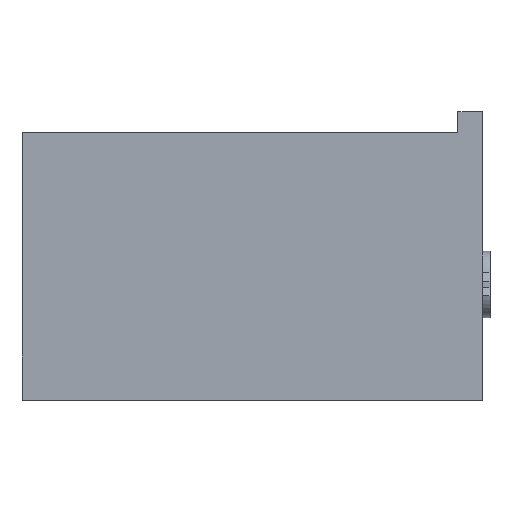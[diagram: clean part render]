
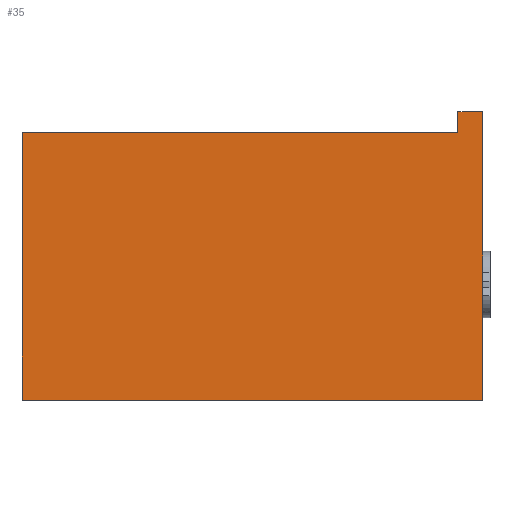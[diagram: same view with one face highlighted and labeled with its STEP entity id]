
A CAD part, left-side view. The second image highlights one B-rep face of the part: STEP entity #35.
In plain terms, the highlighted planar face has unit normal (-1, 0, 0).
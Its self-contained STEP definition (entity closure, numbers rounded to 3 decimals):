
#35 = ADVANCED_FACE('',(#36),#50,.F.);
#36 = FACE_BOUND('',#37,.F.);
#37 = EDGE_LOOP('',(#38,#73,#101,#129,#157,#185));
#38 = ORIENTED_EDGE('',*,*,#39,.F.);
#39 = EDGE_CURVE('',#40,#42,#44,.T.);
#40 = VERTEX_POINT('',#41);
#41 = CARTESIAN_POINT('',(-12.676,-3.,0.));
#42 = VERTEX_POINT('',#43);
#43 = CARTESIAN_POINT('',(-12.676,-3.,35.));
#44 = SURFACE_CURVE('',#45,(#49,#61),.PCURVE_S1.);
#45 = LINE('',#46,#47);
#46 = CARTESIAN_POINT('',(-12.676,-3.,0.));
#47 = VECTOR('',#48,1.);
#48 = DIRECTION('',(0.,0.,1.));
#49 = PCURVE('',#50,#55);
#50 = PLANE('',#51);
#51 = AXIS2_PLACEMENT_3D('',#52,#53,#54);
#52 = CARTESIAN_POINT('',(-12.676,-3.,0.));
#53 = DIRECTION('',(1.,0.,-0.));
#54 = DIRECTION('',(0.,0.,1.));
#55 = DEFINITIONAL_REPRESENTATION('',(#56),#60);
#56 = LINE('',#57,#58);
#57 = CARTESIAN_POINT('',(0.,0.));
#58 = VECTOR('',#59,1.);
#59 = DIRECTION('',(1.,0.));
#60 = ( GEOMETRIC_REPRESENTATION_CONTEXT(2) 
PARAMETRIC_REPRESENTATION_CONTEXT() REPRESENTATION_CONTEXT('2D SPACE',''
  ) );
#61 = PCURVE('',#62,#67);
#62 = PLANE('',#63);
#63 = AXIS2_PLACEMENT_3D('',#64,#65,#66);
#64 = CARTESIAN_POINT('',(-12.676,-3.,0.));
#65 = DIRECTION('',(-0.,1.,0.));
#66 = DIRECTION('',(0.,0.,1.));
#67 = DEFINITIONAL_REPRESENTATION('',(#68),#72);
#68 = LINE('',#69,#70);
#69 = CARTESIAN_POINT('',(0.,0.));
#70 = VECTOR('',#71,1.);
#71 = DIRECTION('',(1.,0.));
#72 = ( GEOMETRIC_REPRESENTATION_CONTEXT(2) 
PARAMETRIC_REPRESENTATION_CONTEXT() REPRESENTATION_CONTEXT('2D SPACE',''
  ) );
#73 = ORIENTED_EDGE('',*,*,#74,.F.);
#74 = EDGE_CURVE('',#75,#40,#77,.T.);
#75 = VERTEX_POINT('',#76);
#76 = CARTESIAN_POINT('',(-12.676,52.935,0.));
#77 = SURFACE_CURVE('',#78,(#82,#89),.PCURVE_S1.);
#78 = LINE('',#79,#80);
#79 = CARTESIAN_POINT('',(-12.676,52.935,0.));
#80 = VECTOR('',#81,1.);
#81 = DIRECTION('',(0.,-1.,0.));
#82 = PCURVE('',#50,#83);
#83 = DEFINITIONAL_REPRESENTATION('',(#84),#88);
#84 = LINE('',#85,#86);
#85 = CARTESIAN_POINT('',(0.,-55.935));
#86 = VECTOR('',#87,1.);
#87 = DIRECTION('',(0.,1.));
#88 = ( GEOMETRIC_REPRESENTATION_CONTEXT(2) 
PARAMETRIC_REPRESENTATION_CONTEXT() REPRESENTATION_CONTEXT('2D SPACE',''
  ) );
#89 = PCURVE('',#90,#95);
#90 = PLANE('',#91);
#91 = AXIS2_PLACEMENT_3D('',#92,#93,#94);
#92 = CARTESIAN_POINT('',(-12.676,-3.,0.));
#93 = DIRECTION('',(0.,0.,1.));
#94 = DIRECTION('',(1.,0.,-0.));
#95 = DEFINITIONAL_REPRESENTATION('',(#96),#100);
#96 = LINE('',#97,#98);
#97 = CARTESIAN_POINT('',(0.,55.935));
#98 = VECTOR('',#99,1.);
#99 = DIRECTION('',(0.,-1.));
#100 = ( GEOMETRIC_REPRESENTATION_CONTEXT(2) 
PARAMETRIC_REPRESENTATION_CONTEXT() REPRESENTATION_CONTEXT('2D SPACE',''
  ) );
#101 = ORIENTED_EDGE('',*,*,#102,.T.);
#102 = EDGE_CURVE('',#75,#103,#105,.T.);
#103 = VERTEX_POINT('',#104);
#104 = CARTESIAN_POINT('',(-12.676,52.935,32.5));
#105 = SURFACE_CURVE('',#106,(#110,#117),.PCURVE_S1.);
#106 = LINE('',#107,#108);
#107 = CARTESIAN_POINT('',(-12.676,52.935,0.));
#108 = VECTOR('',#109,1.);
#109 = DIRECTION('',(0.,0.,1.));
#110 = PCURVE('',#50,#111);
#111 = DEFINITIONAL_REPRESENTATION('',(#112),#116);
#112 = LINE('',#113,#114);
#113 = CARTESIAN_POINT('',(0.,-55.935));
#114 = VECTOR('',#115,1.);
#115 = DIRECTION('',(1.,0.));
#116 = ( GEOMETRIC_REPRESENTATION_CONTEXT(2) 
PARAMETRIC_REPRESENTATION_CONTEXT() REPRESENTATION_CONTEXT('2D SPACE',''
  ) );
#117 = PCURVE('',#118,#123);
#118 = PLANE('',#119);
#119 = AXIS2_PLACEMENT_3D('',#120,#121,#122);
#120 = CARTESIAN_POINT('',(-12.676,52.935,0.));
#121 = DIRECTION('',(-0.,1.,0.));
#122 = DIRECTION('',(0.,0.,1.));
#123 = DEFINITIONAL_REPRESENTATION('',(#124),#128);
#124 = LINE('',#125,#126);
#125 = CARTESIAN_POINT('',(0.,0.));
#126 = VECTOR('',#127,1.);
#127 = DIRECTION('',(1.,0.));
#128 = ( GEOMETRIC_REPRESENTATION_CONTEXT(2) 
PARAMETRIC_REPRESENTATION_CONTEXT() REPRESENTATION_CONTEXT('2D SPACE',''
  ) );
#129 = ORIENTED_EDGE('',*,*,#130,.F.);
#130 = EDGE_CURVE('',#131,#103,#133,.T.);
#131 = VERTEX_POINT('',#132);
#132 = CARTESIAN_POINT('',(-12.676,0.,32.5));
#133 = SURFACE_CURVE('',#134,(#138,#145),.PCURVE_S1.);
#134 = LINE('',#135,#136);
#135 = CARTESIAN_POINT('',(-12.676,0.,32.5));
#136 = VECTOR('',#137,1.);
#137 = DIRECTION('',(-0.,1.,0.));
#138 = PCURVE('',#50,#139);
#139 = DEFINITIONAL_REPRESENTATION('',(#140),#144);
#140 = LINE('',#141,#142);
#141 = CARTESIAN_POINT('',(32.5,-3.));
#142 = VECTOR('',#143,1.);
#143 = DIRECTION('',(0.,-1.));
#144 = ( GEOMETRIC_REPRESENTATION_CONTEXT(2) 
PARAMETRIC_REPRESENTATION_CONTEXT() REPRESENTATION_CONTEXT('2D SPACE',''
  ) );
#145 = PCURVE('',#146,#151);
#146 = PLANE('',#147);
#147 = AXIS2_PLACEMENT_3D('',#148,#149,#150);
#148 = CARTESIAN_POINT('',(-12.676,0.,32.5));
#149 = DIRECTION('',(0.,0.,1.));
#150 = DIRECTION('',(1.,0.,-0.));
#151 = DEFINITIONAL_REPRESENTATION('',(#152),#156);
#152 = LINE('',#153,#154);
#153 = CARTESIAN_POINT('',(0.,0.));
#154 = VECTOR('',#155,1.);
#155 = DIRECTION('',(0.,1.));
#156 = ( GEOMETRIC_REPRESENTATION_CONTEXT(2) 
PARAMETRIC_REPRESENTATION_CONTEXT() REPRESENTATION_CONTEXT('2D SPACE',''
  ) );
#157 = ORIENTED_EDGE('',*,*,#158,.T.);
#158 = EDGE_CURVE('',#131,#159,#161,.T.);
#159 = VERTEX_POINT('',#160);
#160 = CARTESIAN_POINT('',(-12.676,0.,35.));
#161 = SURFACE_CURVE('',#162,(#166,#173),.PCURVE_S1.);
#162 = LINE('',#163,#164);
#163 = CARTESIAN_POINT('',(-12.676,0.,0.));
#164 = VECTOR('',#165,1.);
#165 = DIRECTION('',(0.,0.,1.));
#166 = PCURVE('',#50,#167);
#167 = DEFINITIONAL_REPRESENTATION('',(#168),#172);
#168 = LINE('',#169,#170);
#169 = CARTESIAN_POINT('',(0.,-3.));
#170 = VECTOR('',#171,1.);
#171 = DIRECTION('',(1.,0.));
#172 = ( GEOMETRIC_REPRESENTATION_CONTEXT(2) 
PARAMETRIC_REPRESENTATION_CONTEXT() REPRESENTATION_CONTEXT('2D SPACE',''
  ) );
#173 = PCURVE('',#174,#179);
#174 = PLANE('',#175);
#175 = AXIS2_PLACEMENT_3D('',#176,#177,#178);
#176 = CARTESIAN_POINT('',(-12.676,0.,0.));
#177 = DIRECTION('',(-0.,1.,0.));
#178 = DIRECTION('',(0.,0.,1.));
#179 = DEFINITIONAL_REPRESENTATION('',(#180),#184);
#180 = LINE('',#181,#182);
#181 = CARTESIAN_POINT('',(0.,0.));
#182 = VECTOR('',#183,1.);
#183 = DIRECTION('',(1.,0.));
#184 = ( GEOMETRIC_REPRESENTATION_CONTEXT(2) 
PARAMETRIC_REPRESENTATION_CONTEXT() REPRESENTATION_CONTEXT('2D SPACE',''
  ) );
#185 = ORIENTED_EDGE('',*,*,#186,.F.);
#186 = EDGE_CURVE('',#42,#159,#187,.T.);
#187 = SURFACE_CURVE('',#188,(#192,#199),.PCURVE_S1.);
#188 = LINE('',#189,#190);
#189 = CARTESIAN_POINT('',(-12.676,-3.,35.));
#190 = VECTOR('',#191,1.);
#191 = DIRECTION('',(-0.,1.,0.));
#192 = PCURVE('',#50,#193);
#193 = DEFINITIONAL_REPRESENTATION('',(#194),#198);
#194 = LINE('',#195,#196);
#195 = CARTESIAN_POINT('',(35.,0.));
#196 = VECTOR('',#197,1.);
#197 = DIRECTION('',(0.,-1.));
#198 = ( GEOMETRIC_REPRESENTATION_CONTEXT(2) 
PARAMETRIC_REPRESENTATION_CONTEXT() REPRESENTATION_CONTEXT('2D SPACE',''
  ) );
#199 = PCURVE('',#200,#205);
#200 = PLANE('',#201);
#201 = AXIS2_PLACEMENT_3D('',#202,#203,#204);
#202 = CARTESIAN_POINT('',(-12.676,-3.,35.));
#203 = DIRECTION('',(0.,0.,1.));
#204 = DIRECTION('',(1.,0.,-0.));
#205 = DEFINITIONAL_REPRESENTATION('',(#206),#210);
#206 = LINE('',#207,#208);
#207 = CARTESIAN_POINT('',(0.,0.));
#208 = VECTOR('',#209,1.);
#209 = DIRECTION('',(0.,1.));
#210 = ( GEOMETRIC_REPRESENTATION_CONTEXT(2) 
PARAMETRIC_REPRESENTATION_CONTEXT() REPRESENTATION_CONTEXT('2D SPACE',''
  ) );
